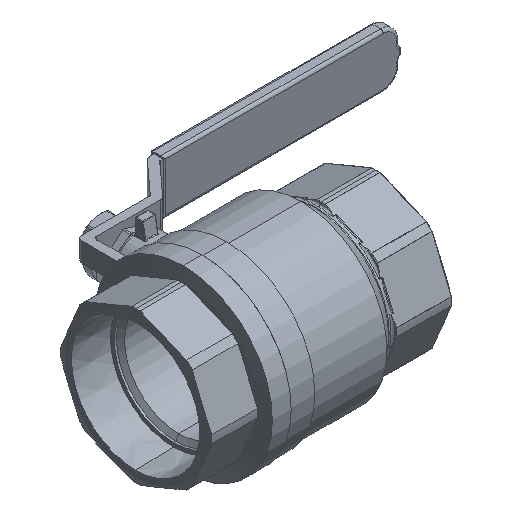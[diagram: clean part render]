
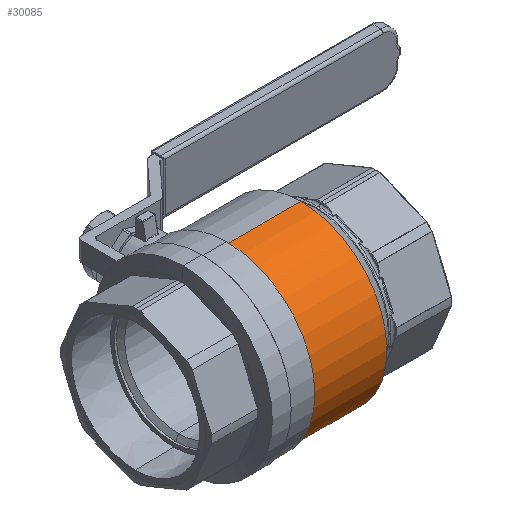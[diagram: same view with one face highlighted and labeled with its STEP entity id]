
A CAD part, isometric view. The second image highlights one B-rep face of the part: STEP entity #30085.
In plain terms, the highlighted cylindrical face has radius 40.386 mm (diameter 80.772 mm), a partial arc.
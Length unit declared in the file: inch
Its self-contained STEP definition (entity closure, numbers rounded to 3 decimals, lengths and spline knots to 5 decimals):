
#815 = CARTESIAN_POINT ( 'NONE',  ( -6.49007, 0., 0. ) ) ;
#1246 = CARTESIAN_POINT ( 'NONE',  ( -6.49007, 0., -1.59 ) ) ;
#1868 = VECTOR ( 'NONE', #15310, 39.37008 ) ;
#2124 = ORIENTED_EDGE ( 'NONE', *, *, #2176, .F. ) ;
#2176 = EDGE_CURVE ( 'NONE', #13803, #26180, #26155, .T. ) ;
#3175 = AXIS2_PLACEMENT_3D ( 'NONE', #9750, #26241, #12133 ) ;
#3953 = EDGE_CURVE ( 'NONE', #13803, #13774, #6650, .T. ) ;
#5203 = VECTOR ( 'NONE', #13353, 39.37008 ) ;
#6577 = DIRECTION ( 'NONE',  ( -1., 0., 0. ) ) ;
#6650 = CIRCLE ( 'NONE', #25684, 1.59 ) ;
#6721 = EDGE_CURVE ( 'NONE', #13774, #27317, #17693, .T. ) ;
#9750 = CARTESIAN_POINT ( 'NONE',  ( -0.53142, 0., 0. ) ) ;
#10030 = DIRECTION ( 'NONE',  ( -1., 0., 0. ) ) ;
#10037 = ORIENTED_EDGE ( 'NONE', *, *, #16363, .F. ) ;
#12133 = DIRECTION ( 'NONE',  ( 0., 0., 1. ) ) ;
#12536 = CARTESIAN_POINT ( 'NONE',  ( 0.82987, 0., 1.59 ) ) ;
#12796 = ORIENTED_EDGE ( 'NONE', *, *, #6721, .T. ) ;
#13353 = DIRECTION ( 'NONE',  ( -1., 0., 0. ) ) ;
#13774 = VERTEX_POINT ( 'NONE', #12536 ) ;
#13803 = VERTEX_POINT ( 'NONE', #24393 ) ;
#14499 = CARTESIAN_POINT ( 'NONE',  ( -0.53142, 0., 1.59 ) ) ;
#15310 = DIRECTION ( 'NONE',  ( -1., 0., 0. ) ) ;
#15751 = CARTESIAN_POINT ( 'NONE',  ( -6.49007, 0., 1.59 ) ) ;
#15823 = AXIS2_PLACEMENT_3D ( 'NONE', #815, #10030, #17234 ) ;
#16030 = ORIENTED_EDGE ( 'NONE', *, *, #3953, .T. ) ;
#16363 = EDGE_CURVE ( 'NONE', #26180, #27317, #28952, .T. ) ;
#17234 = DIRECTION ( 'NONE',  ( 0., 0., 1. ) ) ;
#17693 = LINE ( 'NONE', #15751, #5203 ) ;
#20683 = CARTESIAN_POINT ( 'NONE',  ( 0.82987, 0., 0. ) ) ;
#20699 = CARTESIAN_POINT ( 'NONE',  ( -0.53142, 0., -1.59 ) ) ;
#23037 = DIRECTION ( 'NONE',  ( 0., 0., 1. ) ) ;
#24156 = EDGE_LOOP ( 'NONE', ( #2124, #16030, #12796, #10037 ) ) ;
#24393 = CARTESIAN_POINT ( 'NONE',  ( 0.82987, 0., -1.59 ) ) ;
#25684 = AXIS2_PLACEMENT_3D ( 'NONE', #20683, #6577, #23037 ) ;
#26155 = LINE ( 'NONE', #1246, #1868 ) ;
#26180 = VERTEX_POINT ( 'NONE', #20699 ) ;
#26241 = DIRECTION ( 'NONE',  ( -1., 0., 0. ) ) ;
#27040 = CYLINDRICAL_SURFACE ( 'NONE', #15823, 1.59 ) ;
#27317 = VERTEX_POINT ( 'NONE', #14499 ) ;
#27796 = FACE_OUTER_BOUND ( 'NONE', #24156, .T. ) ;
#28952 = CIRCLE ( 'NONE', #3175, 1.59 ) ;
#30085 = ADVANCED_FACE ( 'NONE', ( #27796 ), #27040, .T. ) ;
